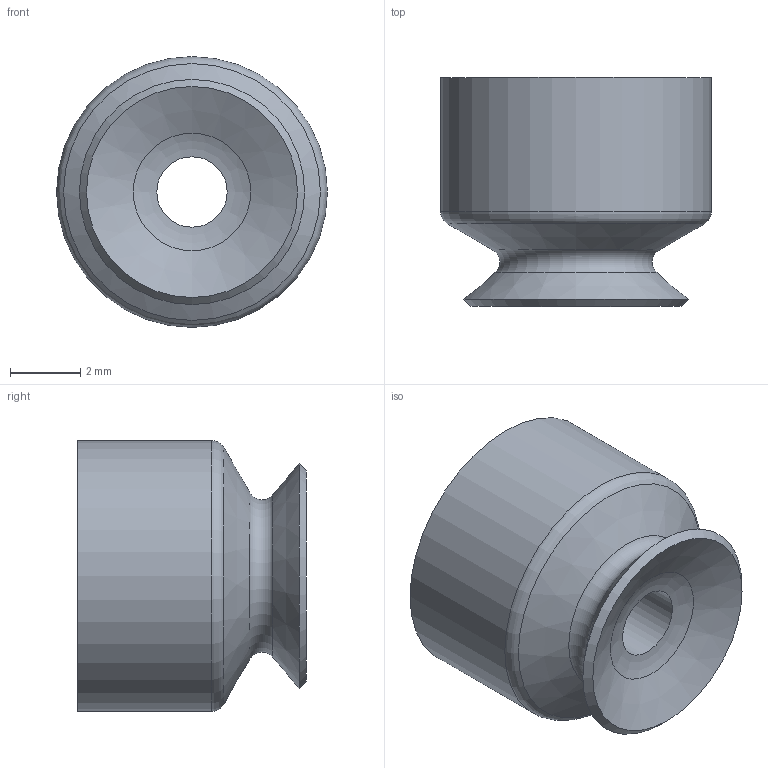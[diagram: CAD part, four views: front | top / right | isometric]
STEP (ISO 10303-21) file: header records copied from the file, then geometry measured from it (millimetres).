
FILE_DESCRIPTION(('STEP AP203'),'1');
FILE_NAME('_3D.stp','2024-06-11T23:34:11',(' '),(' '),'Spatial InterOp 3D',' ',' ');
FILE_SCHEMA(('CONFIG_CONTROL_DESIGN'));
Length unit declared in the file: millimetre
Products named in the file (1): 1
Bounding box: 7.7 x 6.5 x 7.7 mm (x, y, z)
Volume: 150 mm3; surface area: 333.4 mm2
Topology: 1 solids, 1 shells, 18 faces, 41 edges, 26 vertices
Faces by surface type: torus 6, cylinder 4, cone 4, plane 3, bspline 1
Full cylindrical faces by diameter (mm): 2 x1, 4 x1, 6 x1, 7.7 x1
Entity records: 435 total; most frequent: CARTESIAN_POINT 82, DIRECTION 72, AXIS2_PLACEMENT_3D 36, EDGE_LOOP 36, ORIENTED_EDGE 36, FACE_OUTER_BOUND 29, ADVANCED_FACE 18, EDGE_CURVE 18
